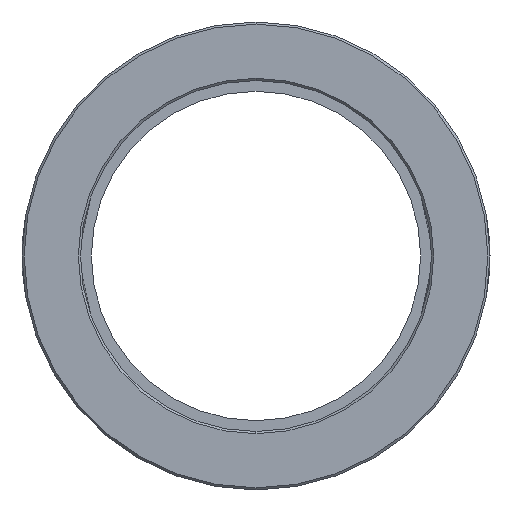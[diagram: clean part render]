
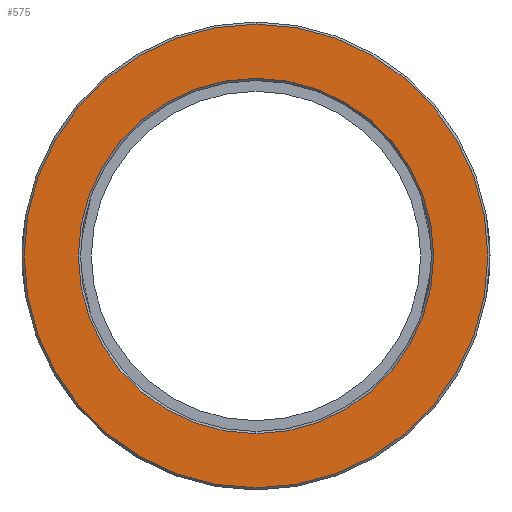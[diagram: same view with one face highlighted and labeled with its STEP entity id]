
A CAD part, left-side view. The second image highlights one B-rep face of the part: STEP entity #575.
In plain terms, the highlighted planar face has unit normal (-1, 0, 0).
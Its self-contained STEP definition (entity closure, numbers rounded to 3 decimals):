
#2 = CARTESIAN_POINT ( 'NONE',  ( 0., 0., 0. ) ) ;
#4 = DIRECTION ( 'NONE',  ( 1., 0., 0. ) ) ;
#9 = DIRECTION ( 'NONE',  ( 0., 0., -1. ) ) ;
#53 = VERTEX_POINT ( 'NONE', #1146 ) ;
#86 = CIRCLE ( 'NONE', #254, 53.5 ) ;
#102 = EDGE_CURVE ( 'NONE', #332, #1474, #86, .T. ) ;
#114 = EDGE_LOOP ( 'NONE', ( #574, #814 ) ) ;
#243 = DIRECTION ( 'NONE',  ( 1., 0., 0. ) ) ;
#254 = AXIS2_PLACEMENT_3D ( 'NONE', #1504, #263, #799 ) ;
#259 = PLANE ( 'NONE',  #724 ) ;
#263 = DIRECTION ( 'NONE',  ( -1., 0., 0. ) ) ;
#268 = CARTESIAN_POINT ( 'NONE',  ( 0., 40.5, 0. ) ) ;
#277 = DIRECTION ( 'NONE',  ( 0., 0., -1. ) ) ;
#290 = CARTESIAN_POINT ( 'NONE',  ( 0., 0., -53.5 ) ) ;
#316 = EDGE_LOOP ( 'NONE', ( #572, #1201 ) ) ;
#332 = VERTEX_POINT ( 'NONE', #941 ) ;
#476 = CIRCLE ( 'NONE', #792, 53.5 ) ;
#499 = VERTEX_POINT ( 'NONE', #885 ) ;
#572 = ORIENTED_EDGE ( 'NONE', *, *, #762, .T. ) ;
#574 = ORIENTED_EDGE ( 'NONE', *, *, #1507, .T. ) ;
#575 = ADVANCED_FACE ( 'NONE', ( #1421, #1445 ), #259, .F. ) ;
#643 = CARTESIAN_POINT ( 'NONE',  ( 0., 0., 0. ) ) ;
#649 = DIRECTION ( 'NONE',  ( -1., 0., 0. ) ) ;
#660 = DIRECTION ( 'NONE',  ( 0., 0., -1. ) ) ;
#666 = AXIS2_PLACEMENT_3D ( 'NONE', #2, #4, #9 ) ;
#724 = AXIS2_PLACEMENT_3D ( 'NONE', #268, #243, #277 ) ;
#762 = EDGE_CURVE ( 'NONE', #53, #499, #1366, .T. ) ;
#766 = CARTESIAN_POINT ( 'NONE',  ( 0., 0., 0. ) ) ;
#787 = DIRECTION ( 'NONE',  ( 0., 0., -1. ) ) ;
#792 = AXIS2_PLACEMENT_3D ( 'NONE', #643, #649, #660 ) ;
#799 = DIRECTION ( 'NONE',  ( 0., 0., -1. ) ) ;
#814 = ORIENTED_EDGE ( 'NONE', *, *, #102, .T. ) ;
#885 = CARTESIAN_POINT ( 'NONE',  ( 0., 0., -41. ) ) ;
#941 = CARTESIAN_POINT ( 'NONE',  ( 0., 0., 53.5 ) ) ;
#1059 = AXIS2_PLACEMENT_3D ( 'NONE', #766, #1160, #787 ) ;
#1146 = CARTESIAN_POINT ( 'NONE',  ( 0., 0., 41. ) ) ;
#1160 = DIRECTION ( 'NONE',  ( 1., 0., 0. ) ) ;
#1178 = EDGE_CURVE ( 'NONE', #499, #53, #1300, .T. ) ;
#1201 = ORIENTED_EDGE ( 'NONE', *, *, #1178, .T. ) ;
#1300 = CIRCLE ( 'NONE', #666, 41. ) ;
#1366 = CIRCLE ( 'NONE', #1059, 41. ) ;
#1421 = FACE_BOUND ( 'NONE', #316, .T. ) ;
#1445 = FACE_OUTER_BOUND ( 'NONE', #114, .T. ) ;
#1474 = VERTEX_POINT ( 'NONE', #290 ) ;
#1504 = CARTESIAN_POINT ( 'NONE',  ( 0., 0., 0. ) ) ;
#1507 = EDGE_CURVE ( 'NONE', #1474, #332, #476, .T. ) ;
